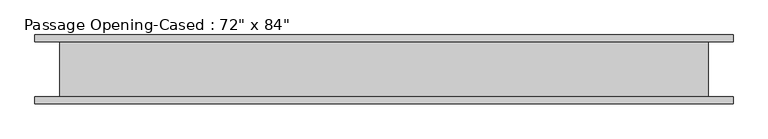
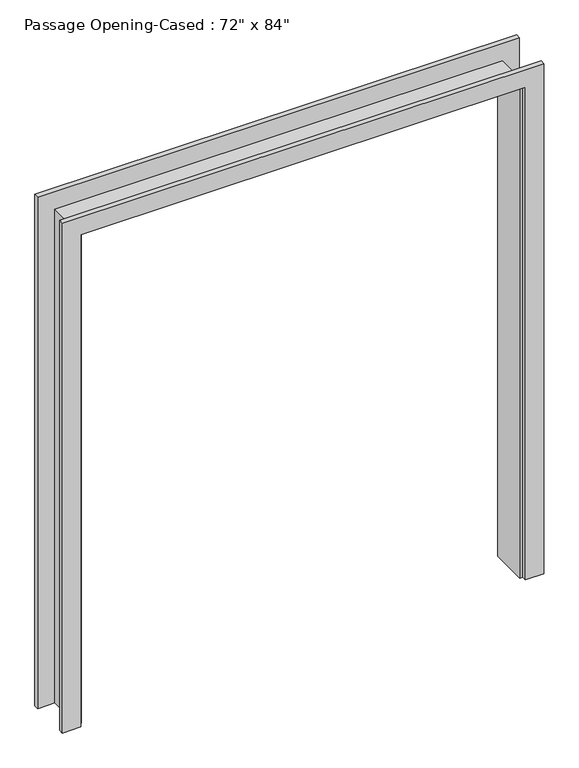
"""IFC4 building model written with IfcOpenShell, lengths in millimetres: proxy geometry."""

import ifcopenshell
import ifcopenshell.guid

model = None  # the IFC model being written
_history = None  # IfcOwnerHistory: only IFC2X3 demands one
_inside = {}  # id of a spatial element -> (the spatial element, [elements in it])
_under = {}  # id of a project, library or spatial element -> (it, [spatial elements below it])
_declared = {}  # id of a project -> (the project, [libraries it declares])
_typed = {}  # id of a type object -> (the type object, [elements of that type])
_made_of = {}  # id of a material, layer set ... -> (it, [elements and type objects made of it])


def new_model(schema):
    """Start an empty IFC model of exactly this schema.

    Asked for "IFC4X3", IfcOpenShell would pick the latest addendum, in which some entities
    have other attributes; the version numbers below select the first issue.
    IFC2X3 requires an IfcOwnerHistory on every rooted entity: one is made here for all.
    """
    global model, _history
    if schema == "IFC4X3":
        model = ifcopenshell.file(schema_version=(4, 3, 0, 0))
    else:
        model = ifcopenshell.file(schema=schema)
    _inside.clear()
    _under.clear()
    _declared.clear()
    _typed.clear()
    _made_of.clear()
    _history = None
    if model.schema == "IFC2X3":
        org = make("IfcOrganization", Name="unknown")
        user = make(
            "IfcPersonAndOrganization",
            ThePerson=make("IfcPerson", FamilyName="unknown"),
            TheOrganization=org,
        )
        app = make(
            "IfcApplication",
            ApplicationDeveloper=org,
            Version="unknown",
            ApplicationFullName="unknown",
            ApplicationIdentifier="unknown",
        )
        _history = make(
            "IfcOwnerHistory",
            OwningUser=user,
            OwningApplication=app,
            ChangeAction="ADDED",
            CreationDate=0,
        )
    return model


def make(cls, **values):
    """One entity of the class cls with the attributes given. An attribute that is None is left unset."""
    return model.create_entity(
        cls, **{name: value for name, value in values.items() if value is not None}
    )


def rooted(cls, **values):
    """An entity with a GlobalId (a new one), such as an element, a storey or a relation."""
    return make(cls, GlobalId=ifcopenshell.guid.new(), OwnerHistory=_history, **values)


def si_unit(unit_type, name, prefix=None):
    """IfcSIUnit, for example si_unit("LENGTHUNIT", "METRE", prefix="MILLI")."""
    return make("IfcSIUnit", UnitType=unit_type, Prefix=prefix, Name=name)


def assignment(units):
    """IfcUnitAssignment: the units of a project."""
    return None if units is None else make("IfcUnitAssignment", Units=units)


def point(xyz):
    """IfcCartesianPoint."""
    return None if xyz is None else make("IfcCartesianPoint", Coordinates=xyz)


def direction(xyz):
    """IfcDirection."""
    return None if xyz is None else make("IfcDirection", DirectionRatios=xyz)


def frame(location, z_axis=None, x_axis=None):
    """IfcAxis2Placement3D, a coordinate frame: its origin and axes. An axis left out is left unset."""
    return make(
        "IfcAxis2Placement3D",
        Location=point(location),
        Axis=direction(z_axis),
        RefDirection=direction(x_axis),
    )


def origin():
    """The frame at (0, 0, 0) with its axes left unset."""
    return frame((0.0, 0.0, 0.0))


def place(relative_to, where):
    """IfcLocalPlacement: puts the frame where relative to a parent placement (None: the world)."""
    return make(
        "IfcLocalPlacement", PlacementRelTo=relative_to, RelativePlacement=where
    )


def context(
    kind, dimensions, precision=None, world=None, true_north=None, identifier=None
):
    """IfcGeometricRepresentationContext, for example the 3D "Model" context."""
    return make(
        "IfcGeometricRepresentationContext",
        ContextIdentifier=identifier,
        ContextType=kind,
        CoordinateSpaceDimension=dimensions,
        Precision=precision,
        WorldCoordinateSystem=world,
        TrueNorth=true_north,
    )


def project(units=None, contexts=None):
    """IfcProject with its units and contexts."""
    return rooted(
        "IfcProject",
        Name="project",
        RepresentationContexts=contexts,
        UnitsInContext=assignment(units),
    )


def spatial(cls, under=None, at=None, **own):
    """A site, building, storey or space (cls), placed at a placement, below another one or the project."""
    s = rooted(cls, ObjectPlacement=at, **own)
    if under is not None:
        _under.setdefault(under.id(), (under, []))[1].append(s)
    return s


def polyline(points):
    """IfcPolyline through the points."""
    return make("IfcPolyline", Points=[point(p) for p in points])


def outline(outer, holes=None, kind="AREA"):
    """IfcArbitraryClosedProfileDef: a profile drawn as a closed curve; with holes, ...WithVoids."""
    if holes is None:
        return make("IfcArbitraryClosedProfileDef", ProfileType=kind, OuterCurve=outer)
    return make(
        "IfcArbitraryProfileDefWithVoids",
        ProfileType=kind,
        OuterCurve=outer,
        InnerCurves=holes,
    )


def extrude(swept, where, along, depth):
    """IfcExtrudedAreaSolid: the profile swept, set in the frame where, extruded along a direction by depth."""
    return make(
        "IfcExtrudedAreaSolid",
        SweptArea=swept,
        Position=where,
        ExtrudedDirection=direction(along),
        Depth=depth,
    )


def faces_of(points, faces, orient=None, outer=None):
    """IfcFace entities. A face is a list of loops; a loop is a list of indices into points, from 0.

    orient and outer hold one flag for each loop. By default every Orientation is true, the
    first loop of a face is its IfcFaceOuterBound and the others are IfcFaceBound.
    """
    made = []
    for i, loops in enumerate(faces):
        bounds = []
        for j, loop in enumerate(loops):
            is_outer = j == 0 if outer is None else outer[i][j]
            bounds.append(
                make(
                    "IfcFaceOuterBound" if is_outer else "IfcFaceBound",
                    Bound=make("IfcPolyLoop", Polygon=[points[k] for k in loop]),
                    Orientation=True if orient is None else orient[i][j],
                )
            )
        made.append(make("IfcFace", Bounds=bounds))
    return made


def faceted_brep(points, faces, orient=None, outer=None, voids=None):
    """IfcFacetedBrep: a solid bounded by flat faces; with voids (closed shells), ...WithVoids."""
    shared = [point(p) for p in points]
    hull = make("IfcClosedShell", CfsFaces=faces_of(shared, faces, orient, outer))
    if voids is None:
        return make("IfcFacetedBrep", Outer=hull)
    return make(
        "IfcFacetedBrepWithVoids",
        Outer=hull,
        Voids=[
            make(cls, CfsFaces=faces_of(shared, fs, o, b)) for cls, fs, o, b in voids
        ],
    )


def shape(context_of_items, identifier, shape_type, items):
    """IfcShapeRepresentation: the items that make up one representation, for example the "Body"."""
    return make(
        "IfcShapeRepresentation",
        ContextOfItems=context_of_items,
        RepresentationIdentifier=identifier,
        RepresentationType=shape_type,
        Items=items,
    )


def source(mapping_origin, context_of_items, identifier, shape_type, items):
    """IfcRepresentationMap: a shape defined once, which mapped items show again and again."""
    return make(
        "IfcRepresentationMap",
        MappingOrigin=mapping_origin,
        MappedRepresentation=shape(context_of_items, identifier, shape_type, items),
    )


def transform(
    local_origin,
    x_axis=None,
    y_axis=None,
    z_axis=None,
    scale=None,
    scale2=None,
    scale3=None,
    uniform=True,
):
    """IfcCartesianTransformationOperator3D, or its non-uniform kind. x_axis, y_axis, z_axis: its Axis1, 2, 3."""
    if uniform:
        return make(
            "IfcCartesianTransformationOperator3D",
            Axis1=direction(x_axis),
            Axis2=direction(y_axis),
            LocalOrigin=point(local_origin),
            Scale=scale,
            Axis3=direction(z_axis),
        )
    return make(
        "IfcCartesianTransformationOperator3DnonUniform",
        Axis1=direction(x_axis),
        Axis2=direction(y_axis),
        LocalOrigin=point(local_origin),
        Scale=scale,
        Axis3=direction(z_axis),
        Scale2=scale2,
        Scale3=scale3,
    )


def mapped(mapping_source, mapping_target):
    """IfcMappedItem: shows the shape of a source again, moved by a transform."""
    return make(
        "IfcMappedItem", MappingSource=mapping_source, MappingTarget=mapping_target
    )


def made_of(thing, what):
    """Note that an element or type object is made of a material, layer set ...; save() writes the relation."""
    if what is not None:
        _made_of.setdefault(what.id(), (what, []))[1].append(thing)
    return thing


def element(
    cls,
    number,
    at=None,
    inside=None,
    cuts=None,
    type_object=None,
    material=None,
    context=None,
    identifier="Body",
    shape_type=None,
    held_by="IfcProductDefinitionShape",
    body=None,
    shapes=None,
    **own,
):
    """One element of the class cls, such as IfcWall. Its Tag is "e" and its number.

    at: its placement. inside: the storey or other place that contains it. cuts: it is an
    opening in that element (IfcRelVoidsElement). A single representation is given by context,
    identifier, shape_type and body (its items); several are given by shapes. held_by: the class
    of the entity that holds the representations. save() writes the other relations.
    """
    e = rooted(cls, Tag="e%d" % number, ObjectPlacement=at, **own)
    if body is not None:
        shapes = [shape(context, identifier, shape_type, body)]
    if shapes is not None:
        e.Representation = make(held_by, Representations=shapes)
    if inside is not None:
        _inside.setdefault(inside.id(), (inside, []))[1].append(e)
    if cuts is not None:
        rooted(
            "IfcRelVoidsElement", RelatingBuildingElement=cuts, RelatedOpeningElement=e
        )
    if type_object is not None:
        _typed.setdefault(type_object.id(), (type_object, []))[1].append(e)
    return made_of(e, material)


def aggregate(whole, parts):
    """IfcRelAggregates: a whole, such as a stair, and the parts it consists of."""
    return rooted("IfcRelAggregates", RelatingObject=whole, RelatedObjects=parts)


def save(model, path):
    """Write the relations noted so far, then the file.

    IfcRelAggregates (storeys below a building ...), IfcRelContainedInSpatialStructure (elements
    in a storey), IfcRelDefinesByType, IfcRelAssociatesMaterial and IfcRelDeclares: one each for
    every whole, place, type object, material and project.
    """
    for whole, parts in _under.values():
        aggregate(whole, parts)
    for where, things in _inside.values():
        rooted(
            "IfcRelContainedInSpatialStructure",
            RelatedElements=things,
            RelatingStructure=where,
        )
    for kind, things in _typed.values():
        rooted("IfcRelDefinesByType", RelatedObjects=things, RelatingType=kind)
    for what, things in _made_of.values():
        rooted("IfcRelAssociatesMaterial", RelatedObjects=things, RelatingMaterial=what)
    for by, libraries in _declared.values():
        rooted("IfcRelDeclares", RelatingContext=by, RelatedDefinitions=libraries)
    model.write(path)


def proxy_2c88b4db(model_context):
    return source(origin(), model_context, "Body", "SolidModel", [
        faceted_brep([(887.1613433, 77.7875, 0.0), (906.2113433, 77.7875, 0.0), (906.2113433, -77.7875, 0.0), (887.1613433, -77.7875, 0.0), (887.1613433, 77.7875, 2114.55), (906.2113433, 77.7875, 2133.6), (906.2113433, -77.7875, 2133.6), (887.1613433, -77.7875, 2114.55), (-903.5386567, 77.7875, 2114.55), (-922.5886567, 77.7875, 2133.6), (-922.5886567, -77.7875, 2133.6), (-903.5386567, -77.7875, 2114.55), (-903.5386567, 77.7875, 0.0), (-903.5386567, -77.7875, 0.0), (-922.5886567, -77.7875, 0.0), (-922.5886567, 77.7875, 0.0)], [[[0, 1, 2, 3]], [[1, 0, 4, 5]], [[2, 1, 5, 6]], [[3, 2, 6, 7]], [[0, 3, 7, 4]], [[5, 4, 8, 9]], [[6, 5, 9, 10]], [[7, 6, 10, 11]], [[4, 7, 11, 8]], [[12, 13, 14, 15]], [[9, 8, 12, 15]], [[10, 9, 15, 14]], [[11, 10, 14, 13]], [[8, 11, 13, 12]]]),
        extrude(outline(polyline([(0.0, 976.0613433), (2209.8, 976.0613433), (2209.8, -992.4386567), (0.0, -992.4386567), (0.0, -916.2386567), (2127.25, -916.2386567), (2127.25, 899.8613433), (0.0, 899.8613433), (0.0, 976.0613433)])), frame((0.0, 77.7875, 0.0), z_axis=(0.0, 1.0, 0.0), x_axis=(0.0, 0.0, 1.0)), (0.0, 0.0, 1.0), 19.05),
        extrude(outline(polyline([(0.0, -916.2386567), (2127.25, -916.2386567), (2127.25, 899.8613433), (0.0, 899.8613433), (0.0, 976.0613433), (2203.45, 976.0613433), (2203.45, -992.4386567), (0.0, -992.4386567), (0.0, -916.2386567)])), frame((0.0, -96.8375, 0.0), z_axis=(0.0, 1.0, 0.0), x_axis=(0.0, 0.0, 1.0)), (0.0, 0.0, 1.0), 19.05),
    ])


if __name__ == "__main__":
    model = new_model("IFC4")
    model_context = context("Model", 3, world=origin())
    ifc_project = project(units=[si_unit("LENGTHUNIT", "METRE", prefix="MILLI")], contexts=[model_context])
    site = spatial("IfcSite", under=ifc_project)
    building = spatial("IfcBuilding", under=site)
    placement = place(None, origin())
    proxy_shape = proxy_2c88b4db(model_context)
    element("IfcBuildingElementProxy", 1, Name="Passage Opening-Cased : 72\" x 84\"", ObjectType="Passage Opening-Cased : 72\" x 84\"", at=placement, inside=building, context=model_context, shape_type="MappedRepresentation", body=[
        mapped(proxy_shape, transform((0.0, 0.0, 0.0), x_axis=(1.0, 0.0, 0.0), y_axis=(0.0, 1.0, 0.0), z_axis=(0.0, 0.0, 1.0))),
    ])
    save(model, "model.ifc")
